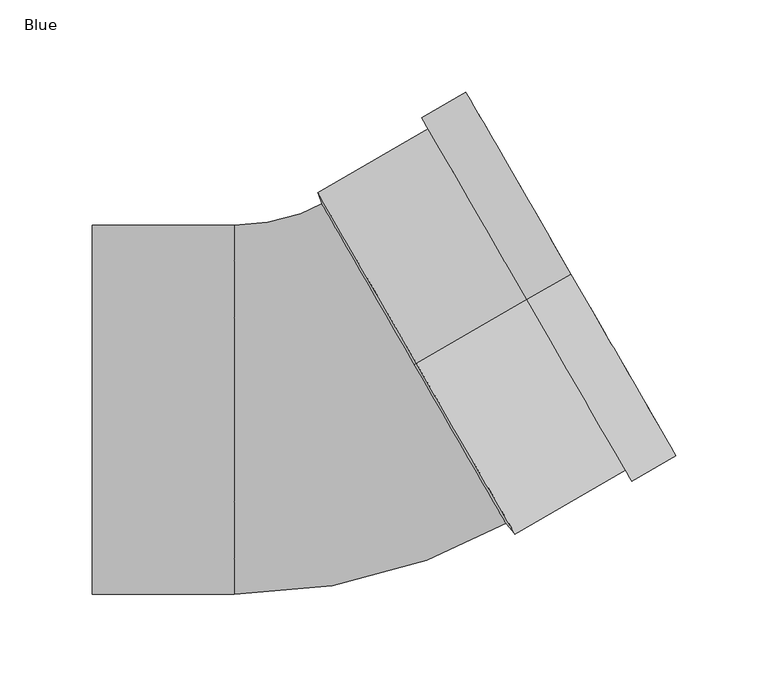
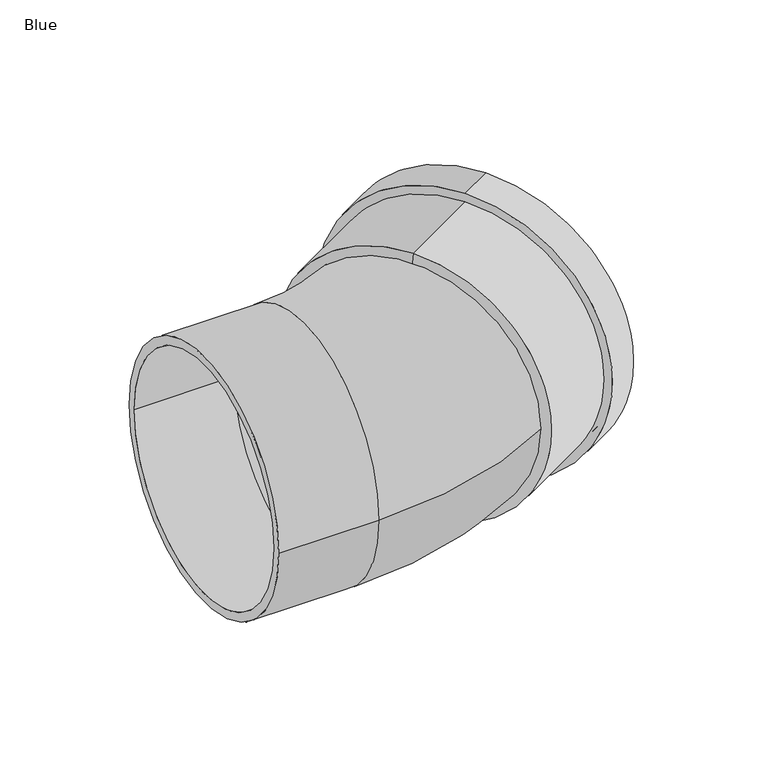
"""IFC4 building model written with IfcOpenShell, lengths in millimetres: pipe fitting geometry, AWADUKT PP SN10 Bend : Blue."""

import ifcopenshell
import ifcopenshell.guid

model = None  # the IFC model being written
_history = None  # IfcOwnerHistory: only IFC2X3 demands one
_inside = {}  # id of a spatial element -> (the spatial element, [elements in it])
_under = {}  # id of a project, library or spatial element -> (it, [spatial elements below it])
_declared = {}  # id of a project -> (the project, [libraries it declares])
_typed = {}  # id of a type object -> (the type object, [elements of that type])
_made_of = {}  # id of a material, layer set ... -> (it, [elements and type objects made of it])


def new_model(schema):
    """Start an empty IFC model of exactly this schema.

    Asked for "IFC4X3", IfcOpenShell would pick the latest addendum, in which some entities
    have other attributes; the version numbers below select the first issue.
    IFC2X3 requires an IfcOwnerHistory on every rooted entity: one is made here for all.
    """
    global model, _history
    if schema == "IFC4X3":
        model = ifcopenshell.file(schema_version=(4, 3, 0, 0))
    else:
        model = ifcopenshell.file(schema=schema)
    _inside.clear()
    _under.clear()
    _declared.clear()
    _typed.clear()
    _made_of.clear()
    _history = None
    if model.schema == "IFC2X3":
        org = make("IfcOrganization", Name="unknown")
        user = make(
            "IfcPersonAndOrganization",
            ThePerson=make("IfcPerson", FamilyName="unknown"),
            TheOrganization=org,
        )
        app = make(
            "IfcApplication",
            ApplicationDeveloper=org,
            Version="unknown",
            ApplicationFullName="unknown",
            ApplicationIdentifier="unknown",
        )
        _history = make(
            "IfcOwnerHistory",
            OwningUser=user,
            OwningApplication=app,
            ChangeAction="ADDED",
            CreationDate=0,
        )
    return model


def make(cls, **values):
    """One entity of the class cls with the attributes given. An attribute that is None is left unset."""
    return model.create_entity(
        cls, **{name: value for name, value in values.items() if value is not None}
    )


def rooted(cls, **values):
    """An entity with a GlobalId (a new one), such as an element, a storey or a relation."""
    return make(cls, GlobalId=ifcopenshell.guid.new(), OwnerHistory=_history, **values)


def si_unit(unit_type, name, prefix=None):
    """IfcSIUnit, for example si_unit("LENGTHUNIT", "METRE", prefix="MILLI")."""
    return make("IfcSIUnit", UnitType=unit_type, Prefix=prefix, Name=name)


def assignment(units):
    """IfcUnitAssignment: the units of a project."""
    return None if units is None else make("IfcUnitAssignment", Units=units)


def point(xyz):
    """IfcCartesianPoint."""
    return None if xyz is None else make("IfcCartesianPoint", Coordinates=xyz)


def direction(xyz):
    """IfcDirection."""
    return None if xyz is None else make("IfcDirection", DirectionRatios=xyz)


def frame(location, z_axis=None, x_axis=None):
    """IfcAxis2Placement3D, a coordinate frame: its origin and axes. An axis left out is left unset."""
    return make(
        "IfcAxis2Placement3D",
        Location=point(location),
        Axis=direction(z_axis),
        RefDirection=direction(x_axis),
    )


def origin():
    """The frame at (0, 0, 0) with its axes left unset."""
    return frame((0.0, 0.0, 0.0))


def place(relative_to, where):
    """IfcLocalPlacement: puts the frame where relative to a parent placement (None: the world)."""
    return make(
        "IfcLocalPlacement", PlacementRelTo=relative_to, RelativePlacement=where
    )


def context(
    kind, dimensions, precision=None, world=None, true_north=None, identifier=None
):
    """IfcGeometricRepresentationContext, for example the 3D "Model" context."""
    return make(
        "IfcGeometricRepresentationContext",
        ContextIdentifier=identifier,
        ContextType=kind,
        CoordinateSpaceDimension=dimensions,
        Precision=precision,
        WorldCoordinateSystem=world,
        TrueNorth=true_north,
    )


def project(units=None, contexts=None):
    """IfcProject with its units and contexts."""
    return rooted(
        "IfcProject",
        Name="project",
        RepresentationContexts=contexts,
        UnitsInContext=assignment(units),
    )


def spatial(cls, under=None, at=None, **own):
    """A site, building, storey or space (cls), placed at a placement, below another one or the project."""
    s = rooted(cls, ObjectPlacement=at, **own)
    if under is not None:
        _under.setdefault(under.id(), (under, []))[1].append(s)
    return s


def polyline(points):
    """IfcPolyline through the points."""
    return make("IfcPolyline", Points=[point(p) for p in points])


def circle_curve(where, radius):
    """IfcCircle in the frame where."""
    return make("IfcCircle", Position=where, Radius=radius)


def ellipse_curve(where, semi_axis1, semi_axis2):
    """IfcEllipse in the frame where."""
    return make(
        "IfcEllipse", Position=where, SemiAxis1=semi_axis1, SemiAxis2=semi_axis2
    )


def trimmed(basis, trim1, trim2, sense, master):
    """IfcTrimmedCurve: the piece of a basis curve between two trims."""
    return make(
        "IfcTrimmedCurve",
        BasisCurve=basis,
        Trim1=trim1,
        Trim2=trim2,
        SenseAgreement=sense,
        MasterRepresentation=master,
    )


def shape(context_of_items, identifier, shape_type, items):
    """IfcShapeRepresentation: the items that make up one representation, for example the "Body"."""
    return make(
        "IfcShapeRepresentation",
        ContextOfItems=context_of_items,
        RepresentationIdentifier=identifier,
        RepresentationType=shape_type,
        Items=items,
    )


def source(mapping_origin, context_of_items, identifier, shape_type, items):
    """IfcRepresentationMap: a shape defined once, which mapped items show again and again."""
    return make(
        "IfcRepresentationMap",
        MappingOrigin=mapping_origin,
        MappedRepresentation=shape(context_of_items, identifier, shape_type, items),
    )


def transform(
    local_origin,
    x_axis=None,
    y_axis=None,
    z_axis=None,
    scale=None,
    scale2=None,
    scale3=None,
    uniform=True,
):
    """IfcCartesianTransformationOperator3D, or its non-uniform kind. x_axis, y_axis, z_axis: its Axis1, 2, 3."""
    if uniform:
        return make(
            "IfcCartesianTransformationOperator3D",
            Axis1=direction(x_axis),
            Axis2=direction(y_axis),
            LocalOrigin=point(local_origin),
            Scale=scale,
            Axis3=direction(z_axis),
        )
    return make(
        "IfcCartesianTransformationOperator3DnonUniform",
        Axis1=direction(x_axis),
        Axis2=direction(y_axis),
        LocalOrigin=point(local_origin),
        Scale=scale,
        Axis3=direction(z_axis),
        Scale2=scale2,
        Scale3=scale3,
    )


def mapped(mapping_source, mapping_target):
    """IfcMappedItem: shows the shape of a source again, moved by a transform."""
    return make(
        "IfcMappedItem", MappingSource=mapping_source, MappingTarget=mapping_target
    )


def made_of(thing, what):
    """Note that an element or type object is made of a material, layer set ...; save() writes the relation."""
    if what is not None:
        _made_of.setdefault(what.id(), (what, []))[1].append(thing)
    return thing


def element(
    cls,
    number,
    at=None,
    inside=None,
    cuts=None,
    type_object=None,
    material=None,
    context=None,
    identifier="Body",
    shape_type=None,
    held_by="IfcProductDefinitionShape",
    body=None,
    shapes=None,
    **own,
):
    """One element of the class cls, such as IfcWall. Its Tag is "e" and its number.

    at: its placement. inside: the storey or other place that contains it. cuts: it is an
    opening in that element (IfcRelVoidsElement). A single representation is given by context,
    identifier, shape_type and body (its items); several are given by shapes. held_by: the class
    of the entity that holds the representations. save() writes the other relations.
    """
    e = rooted(cls, Tag="e%d" % number, ObjectPlacement=at, **own)
    if body is not None:
        shapes = [shape(context, identifier, shape_type, body)]
    if shapes is not None:
        e.Representation = make(held_by, Representations=shapes)
    if inside is not None:
        _inside.setdefault(inside.id(), (inside, []))[1].append(e)
    if cuts is not None:
        rooted(
            "IfcRelVoidsElement", RelatingBuildingElement=cuts, RelatedOpeningElement=e
        )
    if type_object is not None:
        _typed.setdefault(type_object.id(), (type_object, []))[1].append(e)
    return made_of(e, material)


def aggregate(whole, parts):
    """IfcRelAggregates: a whole, such as a stair, and the parts it consists of."""
    return rooted("IfcRelAggregates", RelatingObject=whole, RelatedObjects=parts)


def save(model, path):
    """Write the relations noted so far, then the file.

    IfcRelAggregates (storeys below a building ...), IfcRelContainedInSpatialStructure (elements
    in a storey), IfcRelDefinesByType, IfcRelAssociatesMaterial and IfcRelDeclares: one each for
    every whole, place, type object, material and project.
    """
    for whole, parts in _under.values():
        aggregate(whole, parts)
    for where, things in _inside.values():
        rooted(
            "IfcRelContainedInSpatialStructure",
            RelatedElements=things,
            RelatingStructure=where,
        )
    for kind, things in _typed.values():
        rooted("IfcRelDefinesByType", RelatedObjects=things, RelatingType=kind)
    for what, things in _made_of.values():
        rooted("IfcRelAssociatesMaterial", RelatedObjects=things, RelatingMaterial=what)
    for by, libraries in _declared.values():
        rooted("IfcRelDeclares", RelatingContext=by, RelatedDefinitions=libraries)
    model.write(path)


def plane_surface(at):
    """IfcPlane: the flat surface through the origin of the frame at, square to its z axis."""
    return make("IfcPlane", Position=at)


def cylinder_surface(at, radius):
    """IfcCylindricalSurface: all points at the distance radius from the z axis of the frame at."""
    return make("IfcCylindricalSurface", Position=at, Radius=radius)


def revolved_surface(curve, axis_point, axis_direction):
    """IfcSurfaceOfRevolution: the curve turned about the line through axis_point along axis_direction."""
    return make(
        "IfcSurfaceOfRevolution",
        SweptCurve=make("IfcArbitraryOpenProfileDef", ProfileType="CURVE", Curve=curve),
        AxisPosition=make("IfcAxis1Placement", Location=point(axis_point), Axis=direction(axis_direction)),
    )


def advanced_brep(points, edges, surfaces, faces):
    """IfcAdvancedBrep: a solid bounded by faces that lie on surfaces and meet in shared edges.

    An edge is (start, end): straight between two places in points (the first is 0);
    or (start, end, curve); or (start, end, curve, False) where it runs against its curve.
    A face is (place in surfaces, loops), or (place, loops, False) where it looks against
    its surface's normal. A loop lists edges by number (the first is 1), with a minus sign
    where the edge is run from its end to its start. The first loop is the outer one.
    """
    corners = [point(p) for p in points]
    vertices = [make("IfcVertexPoint", VertexGeometry=c) for c in corners]
    made = []
    for start, end, *more in edges:
        made.append(
            make(
                "IfcEdgeCurve",
                EdgeStart=vertices[start],
                EdgeEnd=vertices[end],
                EdgeGeometry=more[0] if more else make("IfcPolyline", Points=[corners[start], corners[end]]),
                SameSense=more[1] if len(more) > 1 else True,
            )
        )
    hull = []
    for where, loops, *sense in faces:
        bounds = []
        for j, loop in enumerate(loops):
            ring = [make("IfcOrientedEdge", EdgeElement=made[abs(k) - 1], Orientation=k > 0) for k in loop]
            bounds.append(
                make(
                    "IfcFaceOuterBound" if j == 0 else "IfcFaceBound",
                    Bound=make("IfcEdgeLoop", EdgeList=ring),
                    Orientation=True,
                )
            )
        hull.append(make("IfcAdvancedFace", Bounds=bounds, FaceSurface=surfaces[where], SameSense=sense[0] if sense else True))
    return make("IfcAdvancedBrep", Outer=make("IfcClosedShell", CfsFaces=hull))


def blue_cd4b49a2(model_context):
    return source(origin(), model_context, "Body", "AdvancedBrep", [
        advanced_brep(
        [(103.5766383, 59.8, 106.9), (103.5766383, 59.8, -106.9), (43.6709493, 25.2134344, -106.9), (43.6709493, 25.2134344, 106.9), (127.4789394, 73.6, 113.8), (127.4789394, 73.6, -113.8), (103.5766383, 59.8, -113.8), (103.5766383, 59.8, 113.8), (121.5033642, 70.15, 100.0), (121.5033642, 70.15, -100.0), (127.4789394, 73.6, -100.0), (127.4789394, 73.6, 100.0), (109.5522136, 63.25, 106.9), (109.5522136, 63.25, -106.9), (121.5033642, 70.15, -106.9), (121.5033642, 70.15, 106.9), (48.6850524, 28.1083281, 100.0), (48.6850524, 28.1083281, -100.0), (109.5522136, 63.25, -100.0), (109.5522136, 63.25, 100.0), (47.6313972, 27.5, 93.1), (47.6313972, 27.5, -93.1), (41.563639, 23.9967782, 93.1), (41.563639, 23.9967782, -93.1)],
        [
            (0, 1, circle_curve(frame((103.5766383, 59.8, 0.0), z_axis=(-0.866025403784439, -0.49999999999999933, 0.0), x_axis=(0.0, 0.0, -1.0)), 106.9)),
            (1, 2),
            (2, 3, circle_curve(frame((43.6709493, 25.2134344, 0.0), z_axis=(0.866025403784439, 0.49999999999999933, 0.0), x_axis=(0.0, 0.0, -1.0)), 106.9)),
            (3, 0),
            (4, 5, circle_curve(frame((127.4789394, 73.6, 0.0), z_axis=(-0.866025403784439, -0.49999999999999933, 0.0), x_axis=(0.0, 0.0, -1.0)), 113.8)),
            (5, 6),
            (6, 7, circle_curve(frame((103.5766383, 59.8, 0.0), z_axis=(0.866025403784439, 0.49999999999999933, 0.0), x_axis=(0.0, 0.0, -1.0)), 113.8)),
            (7, 4),
            (8, 9, circle_curve(frame((121.5033642, 70.15, 0.0), z_axis=(-0.866025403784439, -0.49999999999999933, 0.0), x_axis=(0.0, 0.0, -1.0)), 100.0)),
            (9, 10),
            (10, 11, circle_curve(frame((127.4789394, 73.6, 0.0), z_axis=(0.866025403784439, 0.49999999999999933, 0.0), x_axis=(0.0, 0.0, -1.0)), 100.0)),
            (11, 8),
            (12, 13, circle_curve(frame((109.5522136, 63.25, 0.0), z_axis=(-0.866025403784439, -0.49999999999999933, 0.0), x_axis=(0.0, 0.0, -1.0)), 106.9)),
            (13, 14),
            (14, 15, circle_curve(frame((121.5033642, 70.15, 0.0), z_axis=(0.866025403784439, 0.49999999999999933, 0.0), x_axis=(0.0, 0.0, -1.0)), 106.9)),
            (15, 12),
            (16, 17, circle_curve(frame((48.6850524, 28.1083281, 0.0), z_axis=(-0.866025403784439, -0.49999999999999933, 0.0), x_axis=(0.0, 0.0, -1.0)), 100.0)),
            (17, 18),
            (18, 19, circle_curve(frame((109.5522136, 63.25, 0.0), z_axis=(0.866025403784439, 0.49999999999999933, 0.0), x_axis=(0.0, 0.0, -1.0)), 100.0)),
            (19, 16),
            (20, 21, circle_curve(frame((47.6313972, 27.5, 0.0), z_axis=(-0.866025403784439, -0.49999999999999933, 0.0), x_axis=(0.0, 0.0, -1.0)), 93.1)),
            (21, 17),
            (16, 20),
            (22, 23, circle_curve(frame((41.563639, 23.9967782, 0.0), z_axis=(-0.866025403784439, -0.49999999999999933, 0.0), x_axis=(0.0, 0.0, -1.0)), 93.1)),
            (23, 21),
            (20, 22),
            (2, 23),
            (22, 3),
            (1, 0, circle_curve(frame((103.5766383, 59.8, 0.0), z_axis=(-0.866025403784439, -0.49999999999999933, 0.0), x_axis=(0.0, 0.0, 1.0)), 106.9)),
            (3, 2, circle_curve(frame((43.6709493, 25.2134344, 0.0), z_axis=(0.866025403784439, 0.49999999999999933, 0.0), x_axis=(0.0, 0.0, 1.0)), 106.9)),
            (6, 7, circle_curve(frame((103.5766383, 59.8, 0.0), z_axis=(-0.866025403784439, -0.49999999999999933, 0.0), x_axis=(0.0, 0.0, 1.0)), 113.8)),
            (5, 4, circle_curve(frame((127.4789394, 73.6, 0.0), z_axis=(-0.866025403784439, -0.49999999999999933, 0.0), x_axis=(0.0, 0.0, 1.0)), 113.8)),
            (10, 11, circle_curve(frame((127.4789394, 73.6, 0.0), z_axis=(-0.866025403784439, -0.49999999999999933, 0.0), x_axis=(0.0, 0.0, 1.0)), 100.0)),
            (9, 8, circle_curve(frame((121.5033642, 70.15, 0.0), z_axis=(-0.866025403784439, -0.49999999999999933, 0.0), x_axis=(0.0, 0.0, 1.0)), 100.0)),
            (14, 15, circle_curve(frame((121.5033642, 70.15, 0.0), z_axis=(-0.866025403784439, -0.49999999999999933, 0.0), x_axis=(0.0, 0.0, 1.0)), 106.9)),
            (13, 12, circle_curve(frame((109.5522136, 63.25, 0.0), z_axis=(-0.866025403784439, -0.49999999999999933, 0.0), x_axis=(0.0, 0.0, 1.0)), 106.9)),
            (18, 19, circle_curve(frame((109.5522136, 63.25, 0.0), z_axis=(-0.866025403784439, -0.49999999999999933, 0.0), x_axis=(0.0, 0.0, 1.0)), 100.0)),
            (17, 16, circle_curve(frame((48.6850524, 28.1083281, 0.0), z_axis=(-0.866025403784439, -0.49999999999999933, 0.0), x_axis=(0.0, 0.0, 1.0)), 100.0)),
            (21, 20, circle_curve(frame((47.6313972, 27.5, 0.0), z_axis=(-0.866025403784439, -0.49999999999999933, 0.0), x_axis=(0.0, 0.0, 1.0)), 93.1)),
            (23, 22, circle_curve(frame((41.563639, 23.9967782, 0.0), z_axis=(-0.866025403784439, -0.49999999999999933, 0.0), x_axis=(0.0, 0.0, 1.0)), 93.1)),
        ],
        [
            cylinder_surface(frame((47.6313972, 27.5, 0.0), z_axis=(0.866025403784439, 0.49999999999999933, 0.0), x_axis=(0.0, 0.0, -1.0)), 106.9),
            cylinder_surface(frame((47.6313972, 27.5, 0.0), z_axis=(0.866025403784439, 0.49999999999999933, 0.0), x_axis=(0.0, 0.0, -1.0)), 113.8),
            revolved_surface(polyline([(127.47893940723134, 73.59999998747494, -100.0), (121.50336418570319, 70.1500000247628, -100.0)]), (47.6313972, 27.5, 0.0), (0.866025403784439, 0.49999999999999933, 0.0)),
            revolved_surface(polyline([(121.50336418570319, 70.1500000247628, -106.9), (109.55221359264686, 63.250000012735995, -106.9)]), (47.6313972, 27.5, 0.0), (0.866025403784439, 0.49999999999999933, 0.0)),
            revolved_surface(polyline([(109.55221359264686, 63.250000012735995, -100.0), (48.68505239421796, 28.108328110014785, -100.0)]), (47.6313972, 27.5, 0.0), (0.866025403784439, 0.49999999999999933, 0.0)),
            revolved_surface(polyline([(48.6850524, 28.1083281, -100.0), (47.6313972, 27.5, -93.1)]), (47.6313972, 27.5, 0.0), (0.866025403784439, 0.49999999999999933, 0.0)),
            revolved_surface(polyline([(47.6313972, 27.5, -93.1), (41.56363901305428, 23.996778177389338, -93.1)]), (47.6313972, 27.5, 0.0), (0.866025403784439, 0.49999999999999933, 0.0)),
            revolved_surface(polyline([(41.563639, 23.9967782, -93.1), (43.6709493, 25.2134344, -106.9)]), (47.6313972, 27.5, 0.0), (0.866025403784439, 0.49999999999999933, 0.0)),
            cylinder_surface(frame((47.6313972, 27.5, 0.0), z_axis=(0.866025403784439, 0.49999999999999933, 0.0), x_axis=(0.0, 0.0, 1.0)), 106.9),
            plane_surface(frame((103.5766383, 59.8, 0.0), z_axis=(-0.866025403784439, -0.49999999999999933, 0.0), x_axis=(0.0, 0.0, 1.0))),
            cylinder_surface(frame((47.6313972, 27.5, 0.0), z_axis=(0.866025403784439, 0.49999999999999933, 0.0), x_axis=(0.0, 0.0, 1.0)), 113.8),
            plane_surface(frame((127.4789394, 73.6, 0.0), z_axis=(0.866025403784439, 0.49999999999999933, 0.0), x_axis=(0.0, 0.0, 1.0))),
            revolved_surface(polyline([(127.47893940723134, 73.59999998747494, 100.0), (121.50336418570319, 70.1500000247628, 100.0)]), (47.6313972, 27.5, 0.0), (0.866025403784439, 0.49999999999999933, 0.0)),
            plane_surface(frame((121.5033642, 70.15, 0.0), z_axis=(-0.866025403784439, -0.49999999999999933, 0.0), x_axis=(0.0, 0.0, 1.0))),
            revolved_surface(polyline([(121.50336418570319, 70.1500000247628, 106.9), (109.55221359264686, 63.250000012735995, 106.9)]), (47.6313972, 27.5, 0.0), (0.866025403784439, 0.49999999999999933, 0.0)),
            plane_surface(frame((109.5522136, 63.25, 0.0), z_axis=(0.866025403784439, 0.49999999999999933, 0.0), x_axis=(0.0, 0.0, 1.0))),
            revolved_surface(polyline([(109.55221359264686, 63.250000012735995, 100.0), (48.68505239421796, 28.108328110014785, 100.0)]), (47.6313972, 27.5, 0.0), (0.866025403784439, 0.49999999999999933, 0.0)),
            revolved_surface(polyline([(48.6850524, 28.1083281, 100.0), (47.6313972, 27.5, 93.1)]), (47.6313972, 27.5, 0.0), (0.866025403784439, 0.49999999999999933, 0.0)),
            revolved_surface(polyline([(47.6313972, 27.5, 93.1), (41.56363901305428, 23.996778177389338, 93.1)]), (47.6313972, 27.5, 0.0), (0.866025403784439, 0.49999999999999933, 0.0)),
            revolved_surface(polyline([(41.563639, 23.9967782, 93.1), (43.6709493, 25.2134344, 106.9)]), (47.6313972, 27.5, 0.0), (0.866025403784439, 0.49999999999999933, 0.0)),
        ],
        [
            (0, [[1, 2, 3, 4]]),
            (1, [[5, 6, 7, 8]]),
            (2, [[9, 10, 11, 12]]),
            (3, [[13, 14, 15, 16]]),
            (4, [[17, 18, 19, 20]]),
            (5, [[21, 22, -17, 23]]),
            (6, [[24, 25, -21, 26]]),
            (7, [[-3, 27, -24, 28]]),
            (8, [[29, -4, 30, -2]]),
            (9, [[31, -7], [-29, -1]]),
            (10, [[32, -8, -31, -6]]),
            (11, [[-32, -5], [33, -11]]),
            (12, [[34, -12, -33, -10]]),
            (13, [[35, -15], [-34, -9]]),
            (14, [[36, -16, -35, -14]]),
            (15, [[-36, -13], [37, -19]]),
            (16, [[38, -20, -37, -18]]),
            (17, [[39, -23, -38, -22]]),
            (18, [[40, -26, -39, -25]]),
            (19, [[-30, -28, -40, -27]]),
        ],
    ),
        advanced_brep(
        [(-132.0, -100.0, 0.0), (-132.0, 100.0, 0.0), (-132.0, -93.1, 0.0), (-132.0, 93.1, 0.0), (97.6313972, -59.1025404, 0.0), (-2.3686028, 114.1025404, 0.0), (94.1813972, -53.1269651, 0.0), (1.0813972, 108.1269651, 0.0), (-55.0, -93.1, 0.0), (-55.0, 93.1, 0.0), (-55.0, -100.0, 0.0), (-55.0, 100.0, 0.0)],
        [
            (0, 1, circle_curve(frame((-132.0, 0.0, 0.0), z_axis=(-1.0, 0.0, 0.0), x_axis=(0.0, 1.0, 0.0)), 100.0)),
            (1, 0, circle_curve(frame((-132.0, 0.0, 0.0), z_axis=(-1.0, 0.0, 0.0), x_axis=(0.0, 1.0, 0.0)), 100.0)),
            (2, 3, circle_curve(frame((-132.0, 0.0, 0.0), z_axis=(1.0, 0.0, 0.0), x_axis=(0.0, 1.0, 0.0)), 93.1)),
            (3, 2, circle_curve(frame((-132.0, 0.0, 0.0), z_axis=(1.0, 0.0, 0.0), x_axis=(0.0, 1.0, 0.0)), 93.1)),
            (4, 5, circle_curve(frame((47.6313972, 27.5, 0.0), z_axis=(0.8660254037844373, 0.5000000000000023, 0.0), x_axis=(-0.5000000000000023, 0.8660254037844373, 0.0)), 100.0)),
            (5, 4, circle_curve(frame((47.6313972, 27.5, 0.0), z_axis=(0.8660254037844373, 0.5000000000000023, 0.0), x_axis=(-0.5000000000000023, 0.8660254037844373, 0.0)), 100.0)),
            (6, 7, circle_curve(frame((47.6313972, 27.5, 0.0), z_axis=(-0.8660254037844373, -0.5000000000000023, 0.0), x_axis=(-0.5000000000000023, 0.8660254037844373, 0.0)), 93.1)),
            (7, 6, circle_curve(frame((47.6313972, 27.5, 0.0), z_axis=(-0.8660254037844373, -0.5000000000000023, 0.0), x_axis=(-0.5000000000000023, 0.8660254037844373, 0.0)), 93.1)),
            (2, 8),
            (8, 9, circle_curve(frame((-55.0, 0.0, 0.0), z_axis=(1.0, 0.0, 0.0), x_axis=(0.0, 1.0, 0.0)), 93.1)),
            (9, 3),
            (9, 8, circle_curve(frame((-55.0, 0.0, 0.0), z_axis=(1.0, 0.0, 0.0), x_axis=(0.0, 1.0, 0.0)), 93.1)),
            (0, 10),
            (10, 11, circle_curve(frame((-55.0, 0.0, 0.0), z_axis=(-1.0, 0.0, 0.0), x_axis=(0.0, 1.0, 0.0)), 100.0)),
            (11, 1),
            (11, 10, circle_curve(frame((-55.0, 0.0, 0.0), z_axis=(-1.0, 0.0, 0.0), x_axis=(0.0, 1.0, 0.0)), 100.0)),
            (7, 9, circle_curve(frame((-55.0, 205.2627944, 0.0), z_axis=(0.0, 0.0, -1.0), x_axis=(0.0, -1.0, 0.0)), 112.1627944)),
            (8, 6, circle_curve(frame((-55.0, 205.2627944, 0.0), z_axis=(0.0, 0.0, 1.0), x_axis=(0.0, -1.0, 0.0)), 298.3627944)),
            (5, 11, circle_curve(frame((-55.0, 205.2627944, 0.0), z_axis=(0.0, 0.0, -1.0), x_axis=(0.0, -1.0, 0.0)), 105.2627944)),
            (10, 4, circle_curve(frame((-55.0, 205.2627944, 0.0), z_axis=(0.0, 0.0, 1.0), x_axis=(0.0, -1.0, 0.0)), 305.2627944)),
        ],
        [
            plane_surface(frame((-132.0, 0.0, 0.0), z_axis=(-1.0, 0.0, 0.0), x_axis=(0.0, 0.0, 1.0))),
            plane_surface(frame((47.6313972, 27.5, 0.0), z_axis=(0.8660254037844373, 0.5000000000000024, 0.0), x_axis=(0.0, 0.0, 1.0))),
            revolved_surface(polyline([(-55.0, 93.1, 0.0), (-132.0, 93.1, 0.0)]), (-132.0, 0.0, 0.0), (1.0, 0.0, 0.0)),
            cylinder_surface(frame((-132.0, 0.0, 0.0), z_axis=(-1.0, 0.0, 0.0), x_axis=(0.0, 1.0, 0.0)), 100.0),
            revolved_surface(trimmed(ellipse_curve(frame((-55.0, 0.0, 0.0), z_axis=(1.0, 0.0, 0.0), x_axis=(0.0, 1.0, 0.0)), 93.1, 93.1), [point((-55.0, -93.1, 0.0))], [point((-55.0, 93.1, 0.0))], True, "CARTESIAN"), (-55.0, 205.2627944, 0.0), (0.0, 0.0, 1.0)),
            revolved_surface(trimmed(ellipse_curve(frame((-55.0, 0.0, 0.0), z_axis=(1.0, 0.0, 0.0), x_axis=(0.0, 1.0, 0.0)), 93.1, 93.1), [point((-55.0, 93.1, 0.0))], [point((-55.0, -93.1, 0.0))], True, "CARTESIAN"), (-55.0, 205.2627944, 0.0), (0.0, 0.0, 1.0)),
            revolved_surface(trimmed(ellipse_curve(frame((-55.0, 0.0, 0.0), z_axis=(-1.0, 0.0, 0.0), x_axis=(0.0, 1.0, 0.0)), 100.0, 100.0), [point((-55.0, -100.0, 0.0))], [point((-55.0, 100.0, 0.0))], True, "CARTESIAN"), (-55.0, 205.2627944, 0.0), (0.0, 0.0, 1.0)),
            revolved_surface(trimmed(ellipse_curve(frame((-55.0, 0.0, 0.0), z_axis=(-1.0, 0.0, 0.0), x_axis=(0.0, 1.0, 0.0)), 100.0, 100.0), [point((-55.0, 100.0, 0.0))], [point((-55.0, -100.0, 0.0))], True, "CARTESIAN"), (-55.0, 205.2627944, 0.0), (0.0, 0.0, 1.0)),
        ],
        [
            (0, [[1, 2], [3, 4]]),
            (1, [[5, 6], [7, 8]]),
            (2, [[-3, 9, 10, 11]]),
            (2, [[-4, -11, 12, -9]]),
            (3, [[-1, 13, 14, 15]]),
            (3, [[-2, -15, 16, -13]]),
            (4, [[17, -10, 18, -8]]),
            (5, [[-18, -12, -17, -7]]),
            (6, [[19, -14, 20, -6]]),
            (7, [[-20, -16, -19, -5]]),
        ],
    ),
    ])


if __name__ == "__main__":
    model = new_model("IFC4")
    model_context = context("Model", 3, world=origin())
    ifc_project = project(units=[si_unit("LENGTHUNIT", "METRE", prefix="MILLI")], contexts=[model_context])
    site = spatial("IfcSite", under=ifc_project)
    building = spatial("IfcBuilding", under=site)
    placement = place(None, origin())
    blue_shape = blue_cd4b49a2(model_context)
    element("IfcPipeFitting", 1, ObjectType="AWADUKT PP SN10 Bend : Blue", at=placement, inside=building, context=model_context, shape_type="MappedRepresentation", body=[
        mapped(blue_shape, transform((0.0, 0.0, 0.0), x_axis=(1.0, 0.0, 0.0), y_axis=(0.0, 1.0, 0.0), z_axis=(0.0, 0.0, 1.0))),
    ])
    save(model, "model.ifc")
